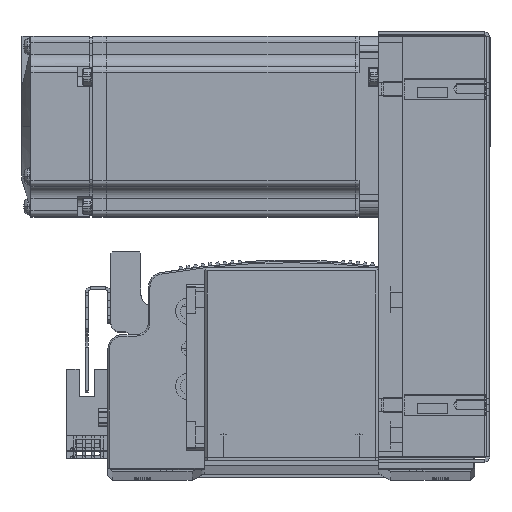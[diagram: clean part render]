
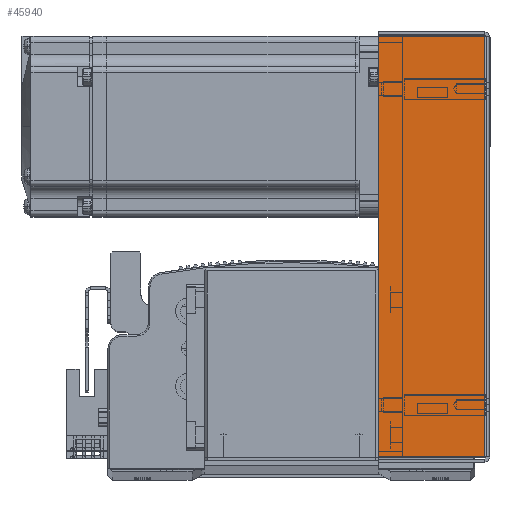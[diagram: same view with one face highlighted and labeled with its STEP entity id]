
A CAD part, top view. The second image highlights one B-rep face of the part: STEP entity #45940.
In plain terms, the highlighted planar face has unit normal (0, 0, 1) as drawn and (0, 0, -1) by its records, which use the part's own axes.
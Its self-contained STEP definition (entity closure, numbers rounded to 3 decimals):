
#4172 = CARTESIAN_POINT ( 'NONE',  ( 69.793, 36., -33.5 ) ) ;
#4204 = CARTESIAN_POINT ( 'NONE',  ( -69.793, 0.737, -33.5 ) ) ;
#4215 = CARTESIAN_POINT ( 'NONE',  ( -69.793, 36., -33.5 ) ) ;
#4248 = CARTESIAN_POINT ( 'NONE',  ( 69.793, 0.737, -33.5 ) ) ;
#22222 = LINE ( 'NONE', #53892, #22234 ) ;
#22234 = VECTOR ( 'NONE', #53895, 1000. ) ;
#22240 = LINE ( 'NONE', #53829, #22269 ) ;
#22269 = VECTOR ( 'NONE', #53790, 1000. ) ;
#22319 = LINE ( 'NONE', #53888, #22333 ) ;
#22333 = VECTOR ( 'NONE', #53896, 1000. ) ;
#22351 = LINE ( 'NONE', #53903, #22403 ) ;
#22403 = VECTOR ( 'NONE', #53921, 1000. ) ;
#28731 = FACE_OUTER_BOUND ( 'NONE', #64082, .T. ) ;
#45940 = ADVANCED_FACE ( 'NONE', ( #28731 ), #49577, .F. ) ;
#49559 = CARTESIAN_POINT ( 'NONE',  ( 0., 0., -33.5 ) ) ;
#49561 = DIRECTION ( 'NONE',  ( 0., 0., 1. ) ) ;
#49563 = DIRECTION ( 'NONE',  ( 0., -1., 0. ) ) ;
#49577 = PLANE ( 'NONE',  #56481 ) ;
#53790 = DIRECTION ( 'NONE',  ( 0., 1., 0. ) ) ;
#53829 = CARTESIAN_POINT ( 'NONE',  ( 69.793, 0., -33.5 ) ) ;
#53888 = CARTESIAN_POINT ( 'NONE',  ( 0., 36., -33.5 ) ) ;
#53892 = CARTESIAN_POINT ( 'NONE',  ( -69.793, 0., -33.5 ) ) ;
#53895 = DIRECTION ( 'NONE',  ( 0., 1., 0. ) ) ;
#53896 = DIRECTION ( 'NONE',  ( 1., 0., 0. ) ) ;
#53903 = CARTESIAN_POINT ( 'NONE',  ( 71.5, 0.737, -33.5 ) ) ;
#53921 = DIRECTION ( 'NONE',  ( 1., 0., 0. ) ) ;
#56481 = AXIS2_PLACEMENT_3D ( 'NONE', #49559, #49561, #49563 ) ;
#64082 = EDGE_LOOP ( 'NONE', ( #87888, #84788, #84762, #86016 ) ) ;
#78722 = EDGE_CURVE ( 'NONE', #92236, #92265, #22240, .T. ) ;
#78760 = EDGE_CURVE ( 'NONE', #92264, #92285, #22222, .T. ) ;
#78765 = EDGE_CURVE ( 'NONE', #92285, #92265, #22319, .T. ) ;
#78772 = EDGE_CURVE ( 'NONE', #92264, #92236, #22351, .T. ) ;
#84762 = ORIENTED_EDGE ( 'NONE', *, *, #78765, .T. ) ;
#84788 = ORIENTED_EDGE ( 'NONE', *, *, #78760, .T. ) ;
#86016 = ORIENTED_EDGE ( 'NONE', *, *, #78722, .F. ) ;
#87888 = ORIENTED_EDGE ( 'NONE', *, *, #78772, .F. ) ;
#92236 = VERTEX_POINT ( 'NONE', #4248 ) ;
#92264 = VERTEX_POINT ( 'NONE', #4204 ) ;
#92265 = VERTEX_POINT ( 'NONE', #4172 ) ;
#92285 = VERTEX_POINT ( 'NONE', #4215 ) ;
